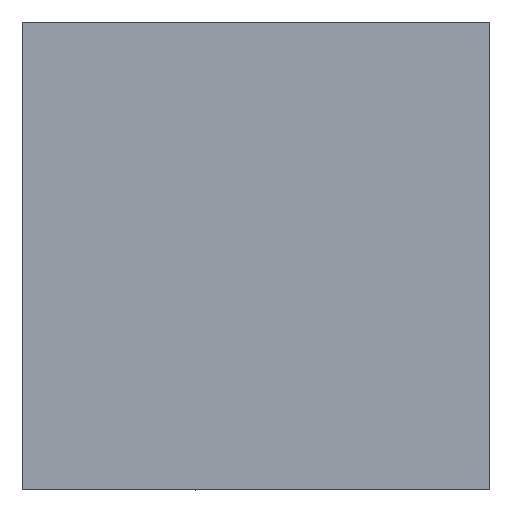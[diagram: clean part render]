
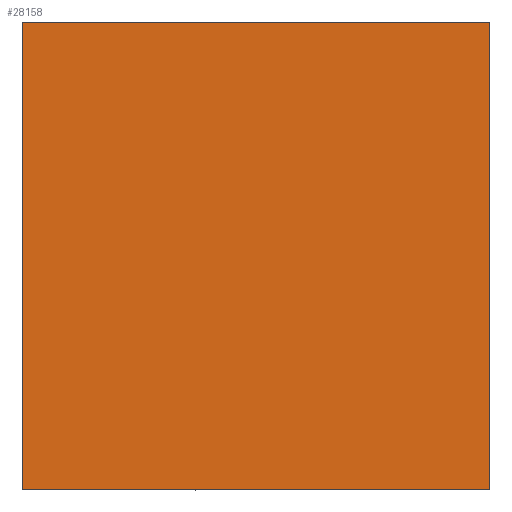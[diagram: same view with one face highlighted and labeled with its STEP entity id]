
A CAD part, left-side view. The second image highlights one B-rep face of the part: STEP entity #28158.
In plain terms, the highlighted planar face has unit normal (-1, 0, 0).
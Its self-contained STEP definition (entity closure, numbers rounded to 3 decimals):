
#15 = PLANE ( 'NONE',  #38428 ) ;
#1123 = EDGE_CURVE ( 'NONE', #21691, #22089, #9104, .T. ) ;
#1937 = DIRECTION ( 'NONE',  ( 1., 0., 0. ) ) ;
#2714 = LINE ( 'NONE', #30662, #16920 ) ;
#3223 = VECTOR ( 'NONE', #8121, 1000. ) ;
#4262 = CARTESIAN_POINT ( 'NONE',  ( -53., 0., -10. ) ) ;
#4896 = EDGE_LOOP ( 'NONE', ( #39253, #28765, #31974, #21449 ) ) ;
#7106 = CARTESIAN_POINT ( 'NONE',  ( -53., 20., 10. ) ) ;
#8121 = DIRECTION ( 'NONE',  ( 0., 1., 0. ) ) ;
#9104 = LINE ( 'NONE', #21562, #36433 ) ;
#11073 = VECTOR ( 'NONE', #37301, 1000. ) ;
#12140 = EDGE_CURVE ( 'NONE', #22089, #24025, #18093, .T. ) ;
#12232 = CARTESIAN_POINT ( 'NONE',  ( -53., 20., 10. ) ) ;
#12656 = EDGE_CURVE ( 'NONE', #31516, #24025, #22220, .T. ) ;
#16920 = VECTOR ( 'NONE', #37164, 1000. ) ;
#17647 = DIRECTION ( 'NONE',  ( 0., 0., 1. ) ) ;
#18093 = LINE ( 'NONE', #39116, #3223 ) ;
#18867 = EDGE_CURVE ( 'NONE', #21691, #31516, #2714, .T. ) ;
#20916 = FACE_OUTER_BOUND ( 'NONE', #4896, .T. ) ;
#21449 = ORIENTED_EDGE ( 'NONE', *, *, #12656, .T. ) ;
#21562 = CARTESIAN_POINT ( 'NONE',  ( -53., 0., 10. ) ) ;
#21691 = VERTEX_POINT ( 'NONE', #21816 ) ;
#21816 = CARTESIAN_POINT ( 'NONE',  ( -53., 0., 10. ) ) ;
#22089 = VERTEX_POINT ( 'NONE', #4262 ) ;
#22220 = LINE ( 'NONE', #12232, #11073 ) ;
#24025 = VERTEX_POINT ( 'NONE', #26855 ) ;
#26855 = CARTESIAN_POINT ( 'NONE',  ( -53., 20., -10. ) ) ;
#28158 = ADVANCED_FACE ( 'NONE', ( #20916 ), #15, .F. ) ;
#28765 = ORIENTED_EDGE ( 'NONE', *, *, #1123, .F. ) ;
#29889 = CARTESIAN_POINT ( 'NONE',  ( -53., 20., 10. ) ) ;
#30662 = CARTESIAN_POINT ( 'NONE',  ( -53., 20., 10. ) ) ;
#31516 = VERTEX_POINT ( 'NONE', #7106 ) ;
#31974 = ORIENTED_EDGE ( 'NONE', *, *, #18867, .T. ) ;
#33991 = DIRECTION ( 'NONE',  ( 0., 0., -1. ) ) ;
#36433 = VECTOR ( 'NONE', #33991, 1000. ) ;
#37164 = DIRECTION ( 'NONE',  ( 0., 1., 0. ) ) ;
#37301 = DIRECTION ( 'NONE',  ( 0., 0., -1. ) ) ;
#38428 = AXIS2_PLACEMENT_3D ( 'NONE', #29889, #1937, #17647 ) ;
#39116 = CARTESIAN_POINT ( 'NONE',  ( -53., 20., -10. ) ) ;
#39253 = ORIENTED_EDGE ( 'NONE', *, *, #12140, .F. ) ;
